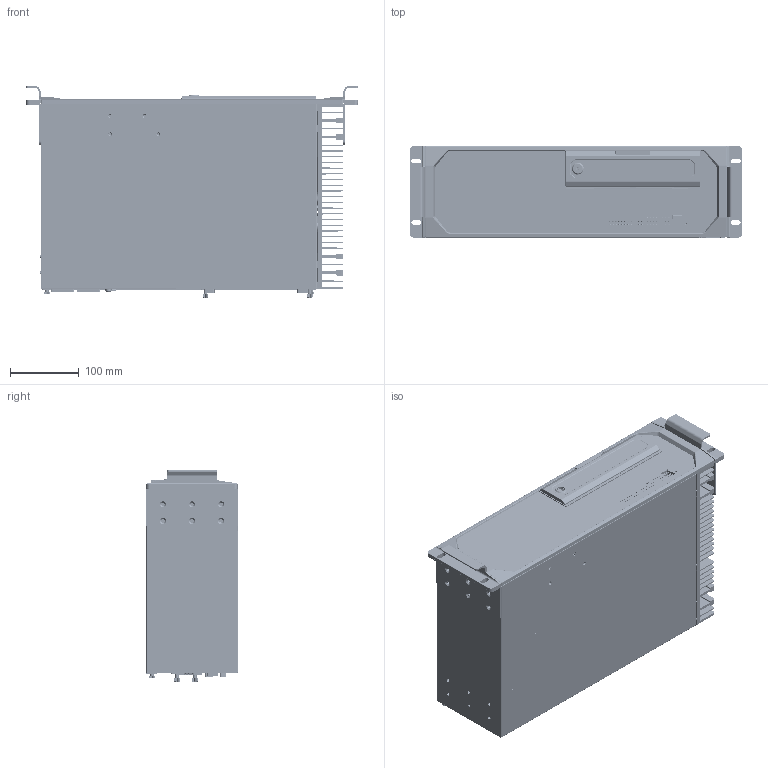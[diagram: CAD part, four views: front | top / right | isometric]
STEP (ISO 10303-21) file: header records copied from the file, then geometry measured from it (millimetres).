
FILE_DESCRIPTION((''),'2;1');
FILE_NAME('3D_DA_820C','2019-06-05T11:25:39',('Justin_Huang'),(''),'CREO PARAMETRIC BY PTC INC, 2018020','CREO PARAMETRIC BY PTC INC, 2018020','');
FILE_SCHEMA(('AUTOMOTIVE_DESIGN { 1 0 10303 214 1 1 1 1 }'));
Products named in the file (1): 3D_DA_820C
Bounding box: 482.6 x 132.81 x 307.43 mm (x, y, z)
Volume: 892271.8 mm3; surface area: 2055869.7 mm2
Topology: 42 solids, 148 shells, 13958 faces, 35876 edges, 22793 vertices
Faces by surface type: plane 7899, cylinder 3982, cone 1164, torus 438, bspline 328, sphere 135, extrusion 12
Entity records: 522107 total; most frequent: CARTESIAN_POINT 108597, ORIENTED_EDGE 70964, DIRECTION 69589, EDGE_CURVE 35714, AXIS2_PLACEMENT_3D 23867, VERTEX_POINT 22791, VECTOR 21855, LINE 21843
